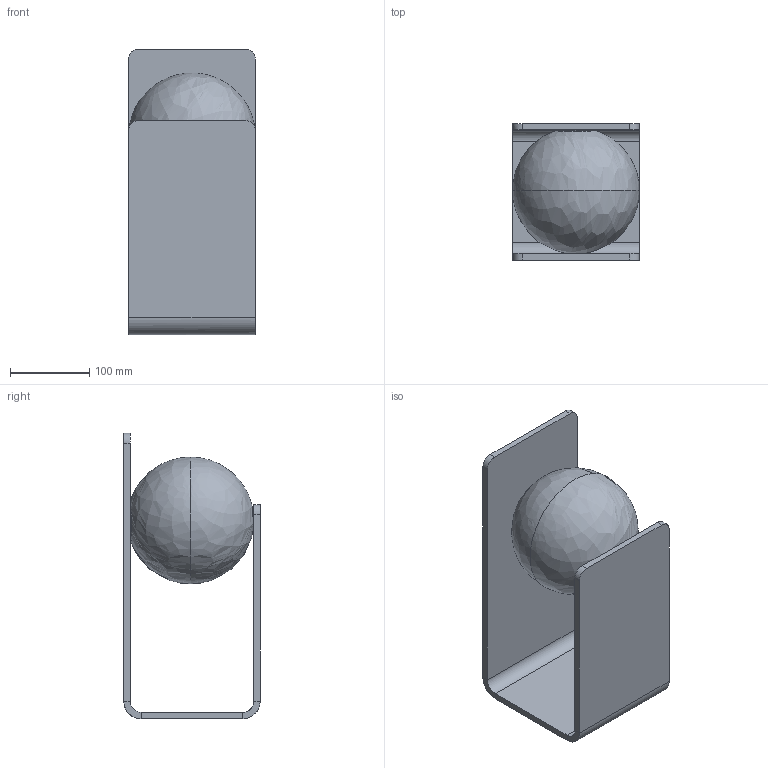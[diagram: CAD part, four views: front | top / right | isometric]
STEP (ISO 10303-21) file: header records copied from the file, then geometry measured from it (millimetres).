
FILE_DESCRIPTION(/* description */ (''),/* implementation_level */ '2;1');
FILE_NAME(/* name */ 'SEM',/* time_stamp */ '2022-11-09T17:35:43+01:00',/* author */ (''),/* organization */ (''),/* preprocessor_version */ 'ST-DEVELOPER v16.5',/* originating_system */ 'Rhino 7.23',/* authorisation */ '');
FILE_SCHEMA (('CONFIG_CONTROL_DESIGN'));
Length unit declared in the file: millimetre
Products named in the file (2): Document; ADE.000026
Assembly tree (1 placements, depth 2):
  Document
    ADE.000026
Bounding box: 160 x 172 x 360.2 mm (x, y, z)
Volume: 1193449.2 mm3; surface area: 422197.5 mm2
Topology: 4 solids, 4 shells, 133 faces, 358 edges, 227 vertices
Faces by surface type: plane 62, cylinder 60, bspline 11
Entity records: 4106 total; most frequent: CARTESIAN_POINT 1648, ORIENTED_EDGE 700, EDGE_CURVE 350, VERTEX_POINT 227, B_SPLINE_CURVE_WITH_KNOTS 213, EDGE_LOOP 137, ADVANCED_FACE 133, FACE_OUTER_BOUND 133
